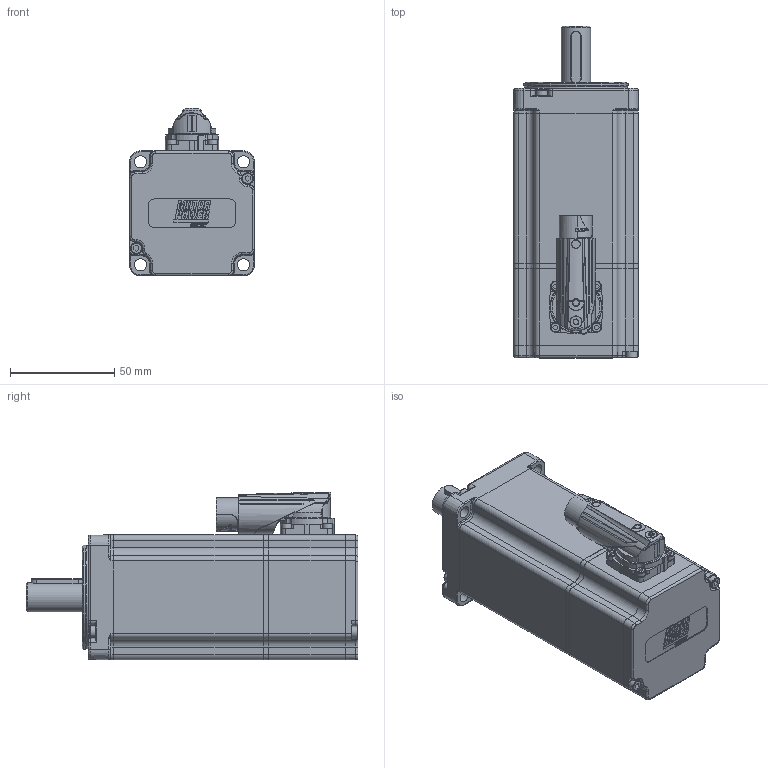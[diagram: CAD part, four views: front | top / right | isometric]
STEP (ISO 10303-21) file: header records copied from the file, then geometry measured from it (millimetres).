
FILE_DESCRIPTION(/* description */ ('Unknown'),/* implementation_level */ '2;1');
FILE_NAME(/* name */ 'TC4-60.2B.XX.X.3.XX.0.1.G11.39.71 Q0C136',/* time_stamp */ '2026-03-03T16:46:57+01:00',/* author */ ('Unknown'),/* organization */ ('Unknown'),/* preprocessor_version */ 'ST-DEVELOPER v19.4',/* originating_system */ 'Solid Edge',/* authorisation */ 'Unknown');
FILE_SCHEMA (('AUTOMOTIVE_DESIGN {1 0 10303 214 3 1 1}'));
Products named in the file (14): Q0C136 60 2B M1 VUOTO; 005911000171; 005113000400; 003103040220; 005911000278; 005911000192; 005119001310; 003107003285; 003155002197; 007117002067; ALBERO TC4-60 2B pred EQI1131 FS key; 005911000495; 003151003164; 003251040722
Assembly tree (23 placements, depth 2):
  Q0C136 60 2B M1 VUOTO
    005911000171  x4
    005113000400
    003103040220
    005911000278  x4
    005911000192  x2
    005119001310
    003107003285
    003155002197
    007117002067
    ALBERO TC4-60 2B pred EQI1131 FS key
    005911000495  x4
    003151003164
    003251040722
Bounding box: 60 x 159.5 x 80.49 mm (x, y, z)
Volume: 168285.2 mm3; surface area: 104618.5 mm2
Topology: 24 solids, 25 shells, 1943 faces, 4818 edges, 3050 vertices
Faces by surface type: plane 862, cylinder 473, bspline 285, torus 148, cone 147, sphere 28
Full cylindrical faces by diameter (mm): 1 x9, 1.8 x5, 2 x5, 2.013 x12, 2.05 x1, 2.459 x16, 2.5 x9, 2.6 x3, 2.7 x4, 3 x11, 3.06 x1, 3.2 x2, 3.5 x8, 4 x1, 4.134 x1, 4.7 x4, 5 x4, 5.25 x5, 5.5 x7, 5.8 x5, 6 x1, 9.99 x1, 10 x1, 13 x1, 14 x2, 14.99 x1, 15 x1, 16.2 x1, 17.025 x1, 18 x1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
Entity records: 64657 total; most frequent: CARTESIAN_POINT 19179, ORIENTED_EDGE 8198, DIRECTION 7538, EDGE_CURVE 4099, AXIS2_PLACEMENT_3D 2797, VERTEX_POINT 2768, FACE_BOUND 2293, EDGE_LOOP 2277
